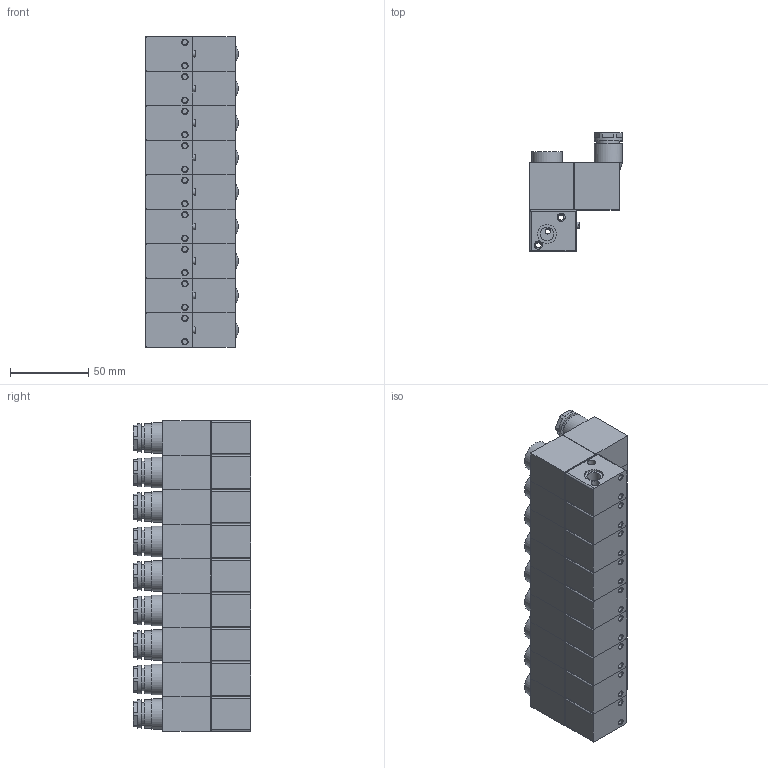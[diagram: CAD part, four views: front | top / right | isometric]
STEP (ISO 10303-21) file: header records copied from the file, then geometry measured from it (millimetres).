
FILE_DESCRIPTION(/* description */ ('STEP AP214'),/* implementation_level */ '2;1');
FILE_NAME(/* name */ '86-MS-3V-09-xxx.stp',/* time_stamp */ '2026-01-15T09:32:03+01:00',/* author */ ('Tschernatsch'),/* organization */ ('CADENAS'),/* preprocessor_version */ 'ST-DEVELOPER v20',/* originating_system */ 'Autodesk Inventor 2024',/* authorisation */ ' ');
FILE_SCHEMA (('AUTOMOTIVE_DESIGN { 1 0 10303 214 3 1 1 }'));
Length unit declared in the file: millimetre
Products named in the file (3): 3v1-06-LD-DC24V-9F; 3v1-06-LD-DC24V-9F3; 3v1-06-LD-DC24V-9F2
Assembly tree (18 placements, depth 2):
  3v1-06-LD-DC24V-9F
    3v1-06-LD-DC24V-9F3  x9
    3v1-06-LD-DC24V-9F2  x9
Bounding box: 59 x 75 x 198 mm (x, y, z)
Volume: 523782.5 mm3; surface area: 133746.7 mm2
Topology: 18 solids, 18 shells, 810 faces, 1755 edges, 1161 vertices
Faces by surface type: plane 549, cylinder 225, cone 36
Full cylindrical faces by diameter (mm): 3.242 x18, 3.5 x27, 4 x9, 4.3 x9, 5.2 x36, 8.566 x27, 11 x9, 12 x18, 14.4 x9, 18 x18, 19.6 x9
Entity records: 2729 total; most frequent: DIRECTION 489, CARTESIAN_POINT 437, ORIENTED_EDGE 390, EDGE_CURVE 195, AXIS2_PLACEMENT_3D 184, VERTEX_POINT 129, LINE 121, VECTOR 121
